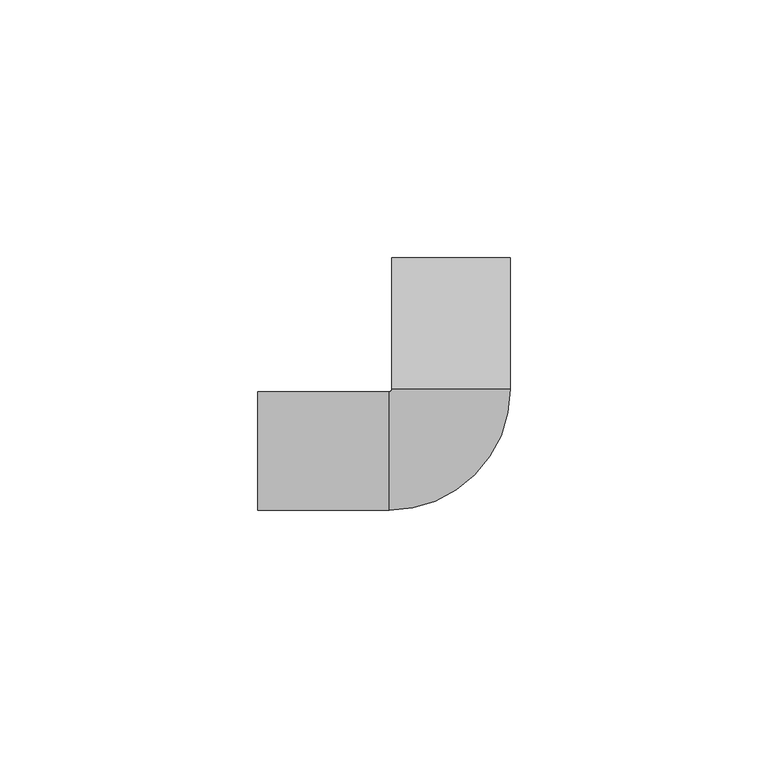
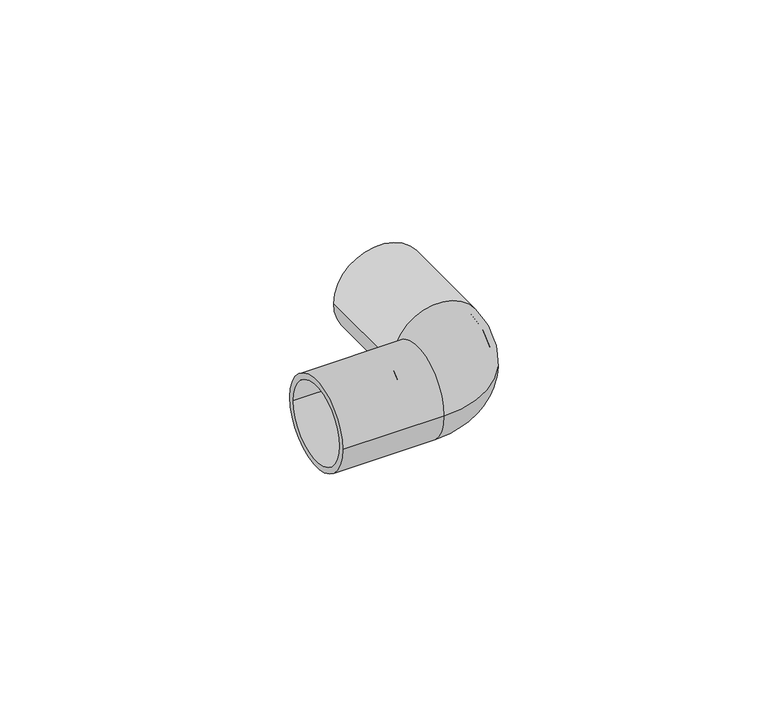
"""IFC4 building model written with IfcOpenShell, lengths in millimetres: cable carrier fitting geometry."""

import ifcopenshell
import ifcopenshell.guid

model = None  # the IFC model being written
_history = None  # IfcOwnerHistory: only IFC2X3 demands one
_inside = {}  # id of a spatial element -> (the spatial element, [elements in it])
_under = {}  # id of a project, library or spatial element -> (it, [spatial elements below it])
_declared = {}  # id of a project -> (the project, [libraries it declares])
_typed = {}  # id of a type object -> (the type object, [elements of that type])
_made_of = {}  # id of a material, layer set ... -> (it, [elements and type objects made of it])


def new_model(schema):
    """Start an empty IFC model of exactly this schema.

    Asked for "IFC4X3", IfcOpenShell would pick the latest addendum, in which some entities
    have other attributes; the version numbers below select the first issue.
    IFC2X3 requires an IfcOwnerHistory on every rooted entity: one is made here for all.
    """
    global model, _history
    if schema == "IFC4X3":
        model = ifcopenshell.file(schema_version=(4, 3, 0, 0))
    else:
        model = ifcopenshell.file(schema=schema)
    _inside.clear()
    _under.clear()
    _declared.clear()
    _typed.clear()
    _made_of.clear()
    _history = None
    if model.schema == "IFC2X3":
        org = make("IfcOrganization", Name="unknown")
        user = make(
            "IfcPersonAndOrganization",
            ThePerson=make("IfcPerson", FamilyName="unknown"),
            TheOrganization=org,
        )
        app = make(
            "IfcApplication",
            ApplicationDeveloper=org,
            Version="unknown",
            ApplicationFullName="unknown",
            ApplicationIdentifier="unknown",
        )
        _history = make(
            "IfcOwnerHistory",
            OwningUser=user,
            OwningApplication=app,
            ChangeAction="ADDED",
            CreationDate=0,
        )
    return model


def make(cls, **values):
    """One entity of the class cls with the attributes given. An attribute that is None is left unset."""
    return model.create_entity(
        cls, **{name: value for name, value in values.items() if value is not None}
    )


def rooted(cls, **values):
    """An entity with a GlobalId (a new one), such as an element, a storey or a relation."""
    return make(cls, GlobalId=ifcopenshell.guid.new(), OwnerHistory=_history, **values)


def si_unit(unit_type, name, prefix=None):
    """IfcSIUnit, for example si_unit("LENGTHUNIT", "METRE", prefix="MILLI")."""
    return make("IfcSIUnit", UnitType=unit_type, Prefix=prefix, Name=name)


def assignment(units):
    """IfcUnitAssignment: the units of a project."""
    return None if units is None else make("IfcUnitAssignment", Units=units)


def point(xyz):
    """IfcCartesianPoint."""
    return None if xyz is None else make("IfcCartesianPoint", Coordinates=xyz)


def direction(xyz):
    """IfcDirection."""
    return None if xyz is None else make("IfcDirection", DirectionRatios=xyz)


def frame(location, z_axis=None, x_axis=None):
    """IfcAxis2Placement3D, a coordinate frame: its origin and axes. An axis left out is left unset."""
    return make(
        "IfcAxis2Placement3D",
        Location=point(location),
        Axis=direction(z_axis),
        RefDirection=direction(x_axis),
    )


def origin():
    """The frame at (0, 0, 0) with its axes left unset."""
    return frame((0.0, 0.0, 0.0))


def place(relative_to, where):
    """IfcLocalPlacement: puts the frame where relative to a parent placement (None: the world)."""
    return make(
        "IfcLocalPlacement", PlacementRelTo=relative_to, RelativePlacement=where
    )


def context(
    kind, dimensions, precision=None, world=None, true_north=None, identifier=None
):
    """IfcGeometricRepresentationContext, for example the 3D "Model" context."""
    return make(
        "IfcGeometricRepresentationContext",
        ContextIdentifier=identifier,
        ContextType=kind,
        CoordinateSpaceDimension=dimensions,
        Precision=precision,
        WorldCoordinateSystem=world,
        TrueNorth=true_north,
    )


def project(units=None, contexts=None):
    """IfcProject with its units and contexts."""
    return rooted(
        "IfcProject",
        Name="project",
        RepresentationContexts=contexts,
        UnitsInContext=assignment(units),
    )


def spatial(cls, under=None, at=None, **own):
    """A site, building, storey or space (cls), placed at a placement, below another one or the project."""
    s = rooted(cls, ObjectPlacement=at, **own)
    if under is not None:
        _under.setdefault(under.id(), (under, []))[1].append(s)
    return s


def polyline(points):
    """IfcPolyline through the points."""
    return make("IfcPolyline", Points=[point(p) for p in points])


def circle_curve(where, radius):
    """IfcCircle in the frame where."""
    return make("IfcCircle", Position=where, Radius=radius)


def ellipse_curve(where, semi_axis1, semi_axis2):
    """IfcEllipse in the frame where."""
    return make(
        "IfcEllipse", Position=where, SemiAxis1=semi_axis1, SemiAxis2=semi_axis2
    )


def trimmed(basis, trim1, trim2, sense, master):
    """IfcTrimmedCurve: the piece of a basis curve between two trims."""
    return make(
        "IfcTrimmedCurve",
        BasisCurve=basis,
        Trim1=trim1,
        Trim2=trim2,
        SenseAgreement=sense,
        MasterRepresentation=master,
    )


def shape(context_of_items, identifier, shape_type, items):
    """IfcShapeRepresentation: the items that make up one representation, for example the "Body"."""
    return make(
        "IfcShapeRepresentation",
        ContextOfItems=context_of_items,
        RepresentationIdentifier=identifier,
        RepresentationType=shape_type,
        Items=items,
    )


def source(mapping_origin, context_of_items, identifier, shape_type, items):
    """IfcRepresentationMap: a shape defined once, which mapped items show again and again."""
    return make(
        "IfcRepresentationMap",
        MappingOrigin=mapping_origin,
        MappedRepresentation=shape(context_of_items, identifier, shape_type, items),
    )


def transform(
    local_origin,
    x_axis=None,
    y_axis=None,
    z_axis=None,
    scale=None,
    scale2=None,
    scale3=None,
    uniform=True,
):
    """IfcCartesianTransformationOperator3D, or its non-uniform kind. x_axis, y_axis, z_axis: its Axis1, 2, 3."""
    if uniform:
        return make(
            "IfcCartesianTransformationOperator3D",
            Axis1=direction(x_axis),
            Axis2=direction(y_axis),
            LocalOrigin=point(local_origin),
            Scale=scale,
            Axis3=direction(z_axis),
        )
    return make(
        "IfcCartesianTransformationOperator3DnonUniform",
        Axis1=direction(x_axis),
        Axis2=direction(y_axis),
        LocalOrigin=point(local_origin),
        Scale=scale,
        Axis3=direction(z_axis),
        Scale2=scale2,
        Scale3=scale3,
    )


def mapped(mapping_source, mapping_target):
    """IfcMappedItem: shows the shape of a source again, moved by a transform."""
    return make(
        "IfcMappedItem", MappingSource=mapping_source, MappingTarget=mapping_target
    )


def made_of(thing, what):
    """Note that an element or type object is made of a material, layer set ...; save() writes the relation."""
    if what is not None:
        _made_of.setdefault(what.id(), (what, []))[1].append(thing)
    return thing


def element(
    cls,
    number,
    at=None,
    inside=None,
    cuts=None,
    type_object=None,
    material=None,
    context=None,
    identifier="Body",
    shape_type=None,
    held_by="IfcProductDefinitionShape",
    body=None,
    shapes=None,
    **own,
):
    """One element of the class cls, such as IfcWall. Its Tag is "e" and its number.

    at: its placement. inside: the storey or other place that contains it. cuts: it is an
    opening in that element (IfcRelVoidsElement). A single representation is given by context,
    identifier, shape_type and body (its items); several are given by shapes. held_by: the class
    of the entity that holds the representations. save() writes the other relations.
    """
    e = rooted(cls, Tag="e%d" % number, ObjectPlacement=at, **own)
    if body is not None:
        shapes = [shape(context, identifier, shape_type, body)]
    if shapes is not None:
        e.Representation = make(held_by, Representations=shapes)
    if inside is not None:
        _inside.setdefault(inside.id(), (inside, []))[1].append(e)
    if cuts is not None:
        rooted(
            "IfcRelVoidsElement", RelatingBuildingElement=cuts, RelatedOpeningElement=e
        )
    if type_object is not None:
        _typed.setdefault(type_object.id(), (type_object, []))[1].append(e)
    return made_of(e, material)


def aggregate(whole, parts):
    """IfcRelAggregates: a whole, such as a stair, and the parts it consists of."""
    return rooted("IfcRelAggregates", RelatingObject=whole, RelatedObjects=parts)


def save(model, path):
    """Write the relations noted so far, then the file.

    IfcRelAggregates (storeys below a building ...), IfcRelContainedInSpatialStructure (elements
    in a storey), IfcRelDefinesByType, IfcRelAssociatesMaterial and IfcRelDeclares: one each for
    every whole, place, type object, material and project.
    """
    for whole, parts in _under.values():
        aggregate(whole, parts)
    for where, things in _inside.values():
        rooted(
            "IfcRelContainedInSpatialStructure",
            RelatedElements=things,
            RelatingStructure=where,
        )
    for kind, things in _typed.values():
        rooted("IfcRelDefinesByType", RelatedObjects=things, RelatingType=kind)
    for what, things in _made_of.values():
        rooted("IfcRelAssociatesMaterial", RelatedObjects=things, RelatingMaterial=what)
    for by, libraries in _declared.values():
        rooted("IfcRelDeclares", RelatingContext=by, RelatedDefinitions=libraries)
    model.write(path)


def plane_surface(at):
    """IfcPlane: the flat surface through the origin of the frame at, square to its z axis."""
    return make("IfcPlane", Position=at)


def cylinder_surface(at, radius):
    """IfcCylindricalSurface: all points at the distance radius from the z axis of the frame at."""
    return make("IfcCylindricalSurface", Position=at, Radius=radius)


def revolved_surface(curve, axis_point, axis_direction):
    """IfcSurfaceOfRevolution: the curve turned about the line through axis_point along axis_direction."""
    return make(
        "IfcSurfaceOfRevolution",
        SweptCurve=make("IfcArbitraryOpenProfileDef", ProfileType="CURVE", Curve=curve),
        AxisPosition=make("IfcAxis1Placement", Location=point(axis_point), Axis=direction(axis_direction)),
    )


def advanced_brep(points, edges, surfaces, faces):
    """IfcAdvancedBrep: a solid bounded by faces that lie on surfaces and meet in shared edges.

    An edge is (start, end): straight between two places in points (the first is 0);
    or (start, end, curve); or (start, end, curve, False) where it runs against its curve.
    A face is (place in surfaces, loops), or (place, loops, False) where it looks against
    its surface's normal. A loop lists edges by number (the first is 1), with a minus sign
    where the edge is run from its end to its start. The first loop is the outer one.
    """
    corners = [point(p) for p in points]
    vertices = [make("IfcVertexPoint", VertexGeometry=c) for c in corners]
    made = []
    for start, end, *more in edges:
        made.append(
            make(
                "IfcEdgeCurve",
                EdgeStart=vertices[start],
                EdgeEnd=vertices[end],
                EdgeGeometry=more[0] if more else make("IfcPolyline", Points=[corners[start], corners[end]]),
                SameSense=more[1] if len(more) > 1 else True,
            )
        )
    hull = []
    for where, loops, *sense in faces:
        bounds = []
        for j, loop in enumerate(loops):
            ring = [make("IfcOrientedEdge", EdgeElement=made[abs(k) - 1], Orientation=k > 0) for k in loop]
            bounds.append(
                make(
                    "IfcFaceOuterBound" if j == 0 else "IfcFaceBound",
                    Bound=make("IfcEdgeLoop", EdgeList=ring),
                    Orientation=True,
                )
            )
        hull.append(make("IfcAdvancedFace", Bounds=bounds, FaceSurface=surfaces[where], SameSense=sense[0] if sense else True))
    return make("IfcAdvancedBrep", Outer=make("IfcClosedShell", CfsFaces=hull))


def cable_carrier_fitting_0d2f3ee6(model_context):
    return source(origin(), model_context, "Body", "AdvancedBrep", [
        advanced_brep(
        [(10.0, 12.0, 0.0), (-12.0, -10.0, 0.0), (-12.0, 10.0, 0.0), (-10.0, 12.0, 0.0), (11.5, 12.0, 0.0), (-12.0, -11.5, 0.0), (-12.0, 11.5, 0.0), (-11.5, 12.0, 0.0), (11.5, 37.5, 0.0), (-11.5, 37.5, 0.0), (10.0, 37.5, 0.0), (-10.0, 37.5, 0.0), (-37.5, -11.5, 0.0), (-37.5, 11.5, 0.0), (-37.5, -10.0, 0.0), (-37.5, 10.0, 0.0)],
        [
            (0, 1, circle_curve(frame((-12.0, 12.0, 0.0), z_axis=(0.0, 0.0, -1.0), x_axis=(0.0, -1.0, 0.0)), 22.0)),
            (1, 2, circle_curve(frame((-12.0, 0.0, 0.0), z_axis=(-1.0, 0.0, 0.0), x_axis=(0.0, 1.0, 0.0)), 10.0)),
            (2, 3, circle_curve(frame((-12.0, 12.0, 0.0), z_axis=(0.0, 0.0, 1.0), x_axis=(0.0, -1.0, 0.0)), 2.0)),
            (3, 0, circle_curve(frame((0.0, 12.0, 0.0), z_axis=(0.0, 1.0, 0.0), x_axis=(-1.0, 0.0, 0.0)), 10.0)),
            (0, 3, circle_curve(frame((0.0, 12.0, 0.0), z_axis=(0.0, 1.0, 0.0), x_axis=(-1.0, 0.0, 0.0)), 10.0)),
            (2, 1, circle_curve(frame((-12.0, 0.0, 0.0), z_axis=(-1.0, 0.0, 0.0), x_axis=(0.0, 1.0, 0.0)), 10.0)),
            (4, 5, circle_curve(frame((-12.0, 12.0, 0.0), z_axis=(0.0, 0.0, -1.0), x_axis=(0.0, -1.0, 0.0)), 23.5)),
            (5, 6, circle_curve(frame((-12.0, 0.0, 0.0), z_axis=(1.0, 0.0, 0.0), x_axis=(0.0, 1.0, 0.0)), 11.5)),
            (6, 7, circle_curve(frame((-12.0, 12.0, 0.0), z_axis=(0.0, 0.0, 1.0), x_axis=(0.0, -1.0, 0.0)), 0.5)),
            (7, 4, circle_curve(frame((0.0, 12.0, 0.0), z_axis=(0.0, -1.0, 0.0), x_axis=(-1.0, 0.0, 0.0)), 11.5)),
            (4, 7, circle_curve(frame((0.0, 12.0, 0.0), z_axis=(0.0, -1.0, 0.0), x_axis=(-1.0, 0.0, 0.0)), 11.5)),
            (6, 5, circle_curve(frame((-12.0, 0.0, 0.0), z_axis=(1.0, 0.0, 0.0), x_axis=(0.0, 1.0, 0.0)), 11.5)),
            (8, 9, circle_curve(frame((0.0, 37.5, 0.0), z_axis=(0.0, 1.0, 0.0), x_axis=(-1.0, 0.0, 0.0)), 11.5)),
            (9, 8, circle_curve(frame((0.0, 37.5, 0.0), z_axis=(0.0, 1.0, 0.0), x_axis=(-1.0, 0.0, 0.0)), 11.5)),
            (10, 11, circle_curve(frame((0.0, 37.5, 0.0), z_axis=(0.0, -1.0, 0.0), x_axis=(-1.0, 0.0, 0.0)), 10.0)),
            (11, 10, circle_curve(frame((0.0, 37.5, 0.0), z_axis=(0.0, -1.0, 0.0), x_axis=(-1.0, 0.0, 0.0)), 10.0)),
            (9, 7),
            (4, 8),
            (11, 3),
            (0, 10),
            (12, 13, circle_curve(frame((-37.5, 0.0, 0.0), z_axis=(-1.0, 0.0, 0.0), x_axis=(0.0, 1.0, 0.0)), 11.5)),
            (13, 12, circle_curve(frame((-37.5, 0.0, 0.0), z_axis=(-1.0, 0.0, 0.0), x_axis=(0.0, 1.0, 0.0)), 11.5)),
            (14, 15, circle_curve(frame((-37.5, 0.0, 0.0), z_axis=(1.0, 0.0, 0.0), x_axis=(0.0, 1.0, 0.0)), 10.0)),
            (15, 14, circle_curve(frame((-37.5, 0.0, 0.0), z_axis=(1.0, 0.0, 0.0), x_axis=(0.0, 1.0, 0.0)), 10.0)),
            (15, 2),
            (1, 14),
            (13, 6),
            (5, 12),
        ],
        [
            revolved_surface(trimmed(ellipse_curve(frame((-12.0, 0.0, 0.0), z_axis=(1.0, 0.0, 0.0), x_axis=(0.0, 1.0, 0.0)), 10.0, 10.0), [point((-12.0, 10.0, 0.0))], [point((-12.0, -10.0, 0.0))], True, "CARTESIAN"), (-12.0, 12.0, 0.0), (0.0, 0.0, 1.0)),
            revolved_surface(trimmed(ellipse_curve(frame((-12.0, 0.0, 0.0), z_axis=(1.0, 0.0, 0.0), x_axis=(0.0, 1.0, 0.0)), 10.0, 10.0), [point((-12.0, -10.0, 0.0))], [point((-12.0, 10.0, 0.0))], True, "CARTESIAN"), (-12.0, 12.0, 0.0), (0.0, 0.0, 1.0)),
            revolved_surface(trimmed(ellipse_curve(frame((-12.0, 0.0, 0.0), z_axis=(-1.0, 0.0, 0.0), x_axis=(0.0, 1.0, 0.0)), 11.5, 11.5), [point((-12.0, 11.5, 0.0))], [point((-12.0, -11.5, 0.0))], True, "CARTESIAN"), (-12.0, 12.0, 0.0), (0.0, 0.0, 1.0)),
            revolved_surface(trimmed(ellipse_curve(frame((-12.0, 0.0, 0.0), z_axis=(-1.0, 0.0, 0.0), x_axis=(0.0, 1.0, 0.0)), 11.5, 11.5), [point((-12.0, -11.5, 0.0))], [point((-12.0, 11.5, 0.0))], True, "CARTESIAN"), (-12.0, 12.0, 0.0), (0.0, 0.0, 1.0)),
            plane_surface(frame((0.0, 37.5, 0.0), z_axis=(0.0, 1.0, 0.0), x_axis=(0.0, 0.0, 1.0))),
            cylinder_surface(frame((0.0, 12.0, 0.0), z_axis=(0.0, -1.0, 0.0), x_axis=(-1.0, 0.0, 0.0)), 11.5),
            revolved_surface(polyline([(-10.0, 37.5, 0.0), (-10.0, 12.0, 0.0)]), (0.0, 12.0, 0.0), (0.0, 1.0, 0.0)),
            plane_surface(frame((-37.5, 0.0, 0.0), z_axis=(-1.0, 0.0, 0.0), x_axis=(0.0, 0.0, 1.0))),
            revolved_surface(polyline([(-12.0, 10.0, 0.0), (-37.5, 10.0, 0.0)]), (-37.5, 0.0, 0.0), (1.0, 0.0, 0.0)),
            cylinder_surface(frame((-37.5, 0.0, 0.0), z_axis=(-1.0, 0.0, 0.0), x_axis=(0.0, 1.0, 0.0)), 11.5),
        ],
        [
            (0, [[1, 2, 3, 4]]),
            (1, [[-1, 5, -3, 6]]),
            (2, [[7, 8, 9, 10]]),
            (3, [[-7, 11, -9, 12]]),
            (4, [[13, 14], [15, 16]]),
            (5, [[-14, 17, -11, 18]]),
            (5, [[-13, -18, -10, -17]]),
            (6, [[-16, 19, -5, 20]]),
            (6, [[-15, -20, -4, -19]]),
            (7, [[21, 22], [23, 24]]),
            (8, [[-24, 25, -2, 26]]),
            (8, [[-23, -26, -6, -25]]),
            (9, [[-22, 27, -8, 28]]),
            (9, [[-21, -28, -12, -27]]),
        ],
    ),
    ])


if __name__ == "__main__":
    model = new_model("IFC4")
    model_context = context("Model", 3, world=origin())
    ifc_project = project(units=[si_unit("LENGTHUNIT", "METRE", prefix="MILLI")], contexts=[model_context])
    site = spatial("IfcSite", under=ifc_project)
    building = spatial("IfcBuilding", under=site)
    placement = place(None, origin())
    cable_carrier_fitting_shape = cable_carrier_fitting_0d2f3ee6(model_context)
    element("IfcCableCarrierFitting", 1, at=placement, inside=building, context=model_context, shape_type="MappedRepresentation", body=[
        mapped(cable_carrier_fitting_shape, transform((0.0, 0.0, 0.0), x_axis=(1.0, 0.0, 0.0), y_axis=(0.0, 1.0, 0.0), z_axis=(0.0, 0.0, 1.0))),
    ])
    save(model, "model.ifc")
